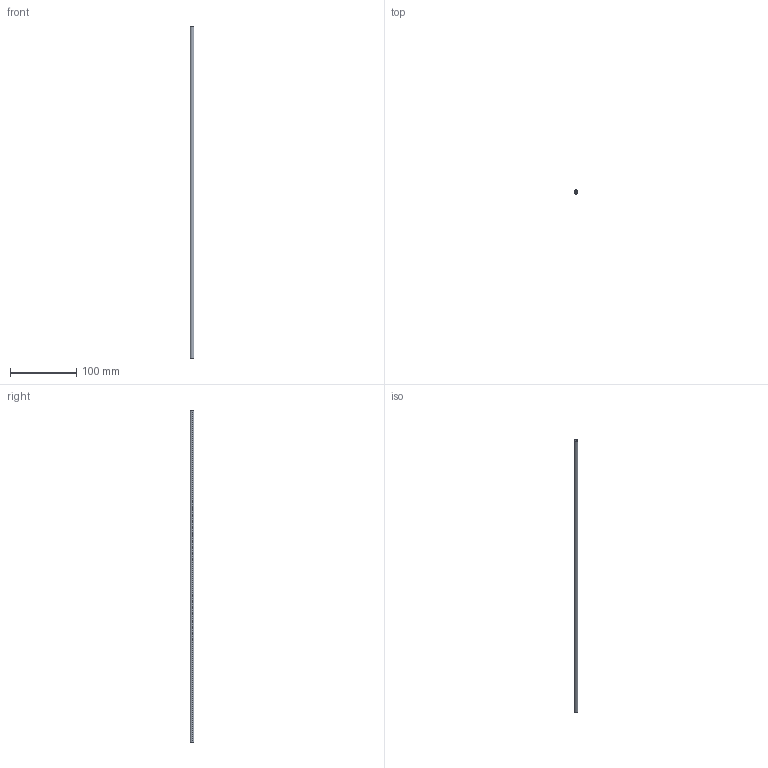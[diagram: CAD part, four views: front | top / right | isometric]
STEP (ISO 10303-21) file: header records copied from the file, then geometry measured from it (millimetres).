
FILE_DESCRIPTION (( 'STEP AP203' ), '1' );
FILE_NAME ('ER-AT50.STEP', '2005-09-06T02:34:58', ( '' ), ( '' ), 'SwSTEP 2.0', 'SolidWorks 2004073', '' );
FILE_SCHEMA (( 'CONFIG_CONTROL_DESIGN' ));
Length unit declared in the file: millimetre
Products named in the file (1): ER-AT50
Bounding box: 6 x 6 x 500 mm (x, y, z)
Volume: 7854 mm3; surface area: 15739.4 mm2
Topology: 1 solids, 1 shells, 6 faces, 12 edges, 8 vertices
Faces by surface type: cylinder 4, plane 2
Entity records: 245 total; most frequent: DIRECTION 34, CARTESIAN_POINT 27, ORIENTED_EDGE 24, AXIS2_PLACEMENT_3D 15, EDGE_CURVE 12, EDGE_LOOP 8, VERTEX_POINT 8, CIRCLE 8
